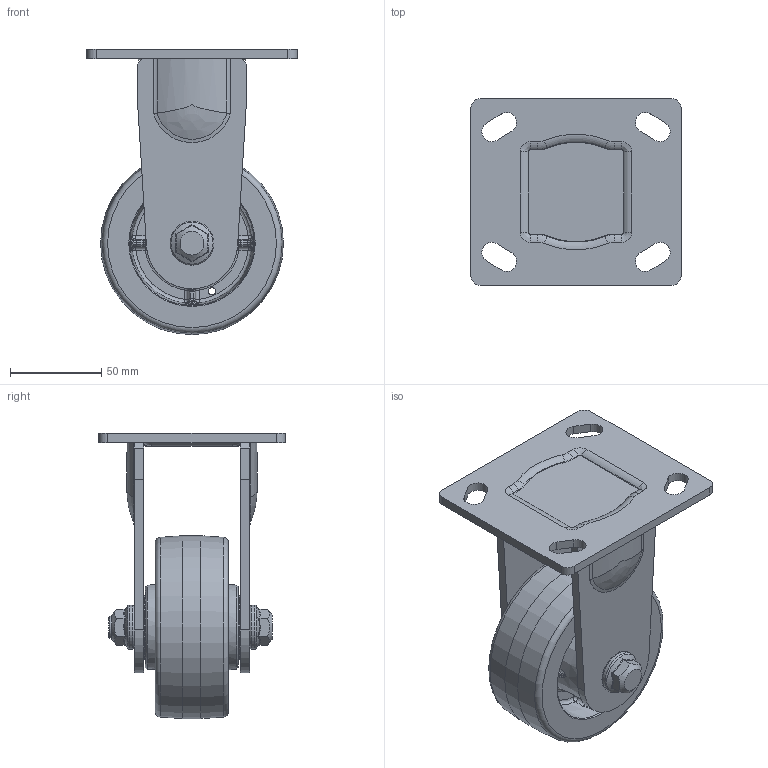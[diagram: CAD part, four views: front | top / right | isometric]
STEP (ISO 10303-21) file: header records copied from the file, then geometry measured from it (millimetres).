
FILE_DESCRIPTION((''),'2;1');
FILE_NAME('C:\Documents and Settings\Administrator\바탕 화면\3D STEP\GH-SERIES\GH-100\GH-100A-RF.stp','2010-12-27T14:24:29',('Administrator'),(''),'Autodesk Inventor 2009','Autodesk Inventor 2009','');
FILE_SCHEMA(('AUTOMOTIVE_DESIGN { 1 0 10303 214 1 1 1 1 }'));
Length unit declared in the file: millimetre
Products named in the file (1): GH-100A-RF
Bounding box: 115 x 102 x 156 mm (x, y, z)
Volume: 379040.1 mm3; surface area: 109749.2 mm2
Topology: 3 solids, 7 shells, 543 faces, 1259 edges, 742 vertices
Faces by surface type: bspline 269, plane 105, cylinder 99, cone 48, torus 22
Full cylindrical faces by diameter (mm): 4 x2, 12 x2, 15 x2, 15.2 x2, 21.5 x2, 24 x2, 30.5 x2, 35 x2, 35.18 x2, 100 x1
Entity records: 29792 total; most frequent: CARTESIAN_POINT 18547, ORIENTED_EDGE 2436, DIRECTION 2176, EDGE_CURVE 1218, AXIS2_PLACEMENT_3D 965, VERTEX_POINT 737, CIRCLE 676, EDGE_LOOP 625
